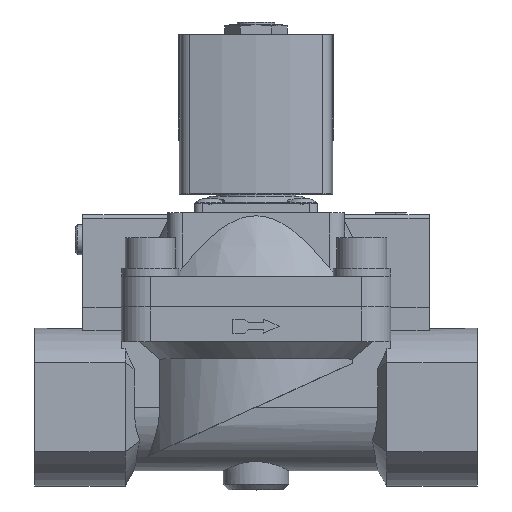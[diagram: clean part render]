
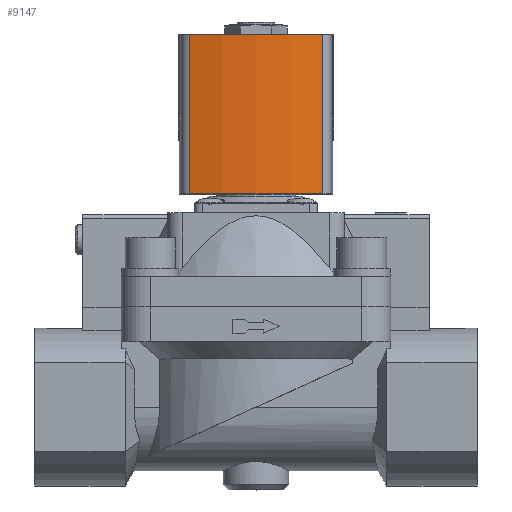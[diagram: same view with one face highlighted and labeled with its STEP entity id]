
A CAD part, top view. The second image highlights one B-rep face of the part: STEP entity #9147.
In plain terms, the highlighted cylindrical face has radius 60 mm (diameter 120 mm), a partial arc.
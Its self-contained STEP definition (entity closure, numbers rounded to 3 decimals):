
#206=CIRCLE('',#11742,60.);
#300=CIRCLE('',#11963,60.);
#1618=LINE('',#17252,#2616);
#1619=LINE('',#17256,#2617);
#2616=VECTOR('',#14213,1000.);
#2617=VECTOR('',#14218,1000.);
#4712=ORIENTED_EDGE('',*,*,#6569,.T.);
#4713=ORIENTED_EDGE('',*,*,#6570,.F.);
#4714=ORIENTED_EDGE('',*,*,#5855,.F.);
#4715=ORIENTED_EDGE('',*,*,#6568,.T.);
#5855=EDGE_CURVE('',#7025,#7026,#206,.T.);
#6568=EDGE_CURVE('',#7025,#7531,#1618,.T.);
#6569=EDGE_CURVE('',#7531,#7532,#300,.T.);
#6570=EDGE_CURVE('',#7026,#7532,#1619,.T.);
#7025=VERTEX_POINT('',#15906);
#7026=VERTEX_POINT('',#15908);
#7531=VERTEX_POINT('',#17251);
#7532=VERTEX_POINT('',#17255);
#7990=EDGE_LOOP('',(#4712,#4713,#4714,#4715));
#8564=FACE_BOUND('',#7990,.T.);
#8804=CYLINDRICAL_SURFACE('',#11962,60.);
#9147=ADVANCED_FACE('',(#8564),#8804,.T.);
#11742=AXIS2_PLACEMENT_3D('',#15907,#13154,#13155);
#11962=AXIS2_PLACEMENT_3D('',#17253,#14214,#14215);
#11963=AXIS2_PLACEMENT_3D('',#17254,#14216,#14217);
#13154=DIRECTION('',(0.,1.,0.));
#13155=DIRECTION('',(1.,0.,0.));
#14213=DIRECTION('',(0.,-1.,0.));
#14214=DIRECTION('',(0.,-1.,0.));
#14215=DIRECTION('',(0.,0.,-1.));
#14216=DIRECTION('',(0.,1.,0.));
#14217=DIRECTION('',(1.,0.,0.));
#14218=DIRECTION('',(0.,-1.,0.));
#15906=CARTESIAN_POINT('',(20.947,15.5,17.315));
#15907=CARTESIAN_POINT('',(-36.5,15.5,0.));
#15908=CARTESIAN_POINT('',(20.947,15.5,-17.315));
#17251=CARTESIAN_POINT('',(20.947,-25.9,17.315));
#17252=CARTESIAN_POINT('',(20.947,15.5,17.315));
#17253=CARTESIAN_POINT('',(-36.5,15.5,0.));
#17254=CARTESIAN_POINT('',(-36.5,-25.9,0.));
#17255=CARTESIAN_POINT('',(20.947,-25.9,-17.315));
#17256=CARTESIAN_POINT('',(20.947,15.5,-17.315));
